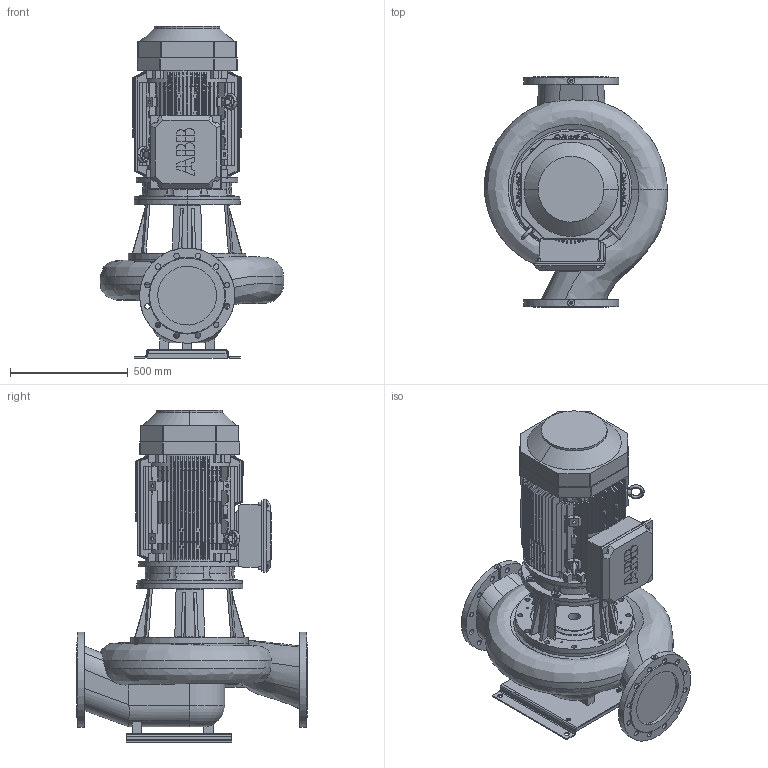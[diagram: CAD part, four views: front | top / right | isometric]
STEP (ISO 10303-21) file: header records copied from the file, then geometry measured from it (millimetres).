
FILE_DESCRIPTION(('STEP AP214'),'1');
FILE_NAME('export.stp','2018-05-30T06:27:21',(' '),(' '),'Spatial InterOp 3D',' ',' ');
FILE_SCHEMA(('AUTOMOTIVE_DESIGN { 1 0 10303 214 1 1 1 1 }'));
Length unit declared in the file: millimetre
Products named in the file (19): W_AL12506SD300; V_TLL125SAL1250; V_PPAL1250; P100464; P100462; P101191; P101336; ICE-225; -simplified-simplified_parts_Sta; -simplified-simplified_parts_M32; 3GZV183002-193006-183002-183999_; 3GZV311000-999999-324000-324001_; -simplified-simplified_parts_Fan; -simplified-simplified_parts_Ter; 3GZV244000-310999-294000-299999_; ABBstandard-9ADA_Lifting_Eye_9AD
Assembly tree (20 placements, depth 3):
  W_AL12506SD300
    V_TLL125SAL1250
    V_PPAL1250
    P100464
      P100462
      P101191  x2
    P101336
    ICE-225
      -simplified-simplified_parts_Sta
      -simplified-simplified_parts_M32
      3GZV183002-193006-183002-183999_
      3GZV311000-999999-324000-324001_
      -simplified-simplified_parts_Fan
      -simplified-simplified_parts_Ter
      -simplified-simplified_parts_Ter
      3GZV244000-310999-294000-299999_
      3GZV244000-310999-294000-299999_
      3GZV244000-310999-294000-299999_
      ABBstandard-9ADA_Lifting_Eye_9AD  x2
Bounding box: 779.15 x 980 x 1411.61 mm (x, y, z)
Volume: 221272854.4 mm3; surface area: 8616472.2 mm2
Topology: 15 solids, 221 shells, 2212 faces, 6656 edges, 4699 vertices
Faces by surface type: bspline 1760, cylinder 261, plane 128, cone 32, torus 31
Entity records: 122928 total; most frequent: CARTESIAN_POINT 40408, ORIENTED_EDGE 11820, STYLED_ITEM 6975, PRESENTATION_STYLE_ASSIGNMENT 6975, COLOUR_RGB 6975, EDGE_CURVE 6390, CURVE_STYLE 4643, DRAUGHTING_PRE_DEFINED_CURVE_FONT 4643
